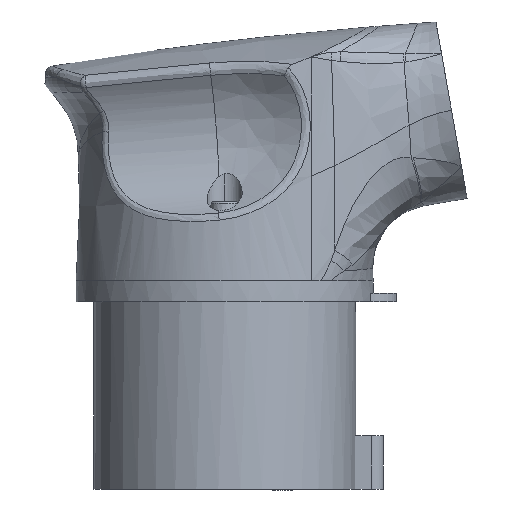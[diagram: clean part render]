
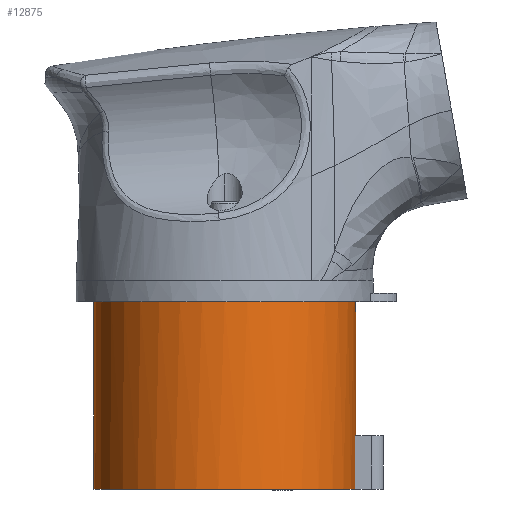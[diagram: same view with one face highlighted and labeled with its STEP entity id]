
A CAD part, left-side view. The second image highlights one B-rep face of the part: STEP entity #12875.
In plain terms, the highlighted cylindrical face has radius 31.75 mm (diameter 63.5 mm), a partial arc.
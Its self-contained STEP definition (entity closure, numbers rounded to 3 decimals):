
#335=CARTESIAN_POINT('',(0.,0.,-5.));
#336=DIRECTION('',(0.,0.,1.));
#337=DIRECTION('',(0.,1.,0.));
#338=AXIS2_PLACEMENT_3D('',#335,#336,#337);
#4680=CARTESIAN_POINT('',(0.,0.,-37.5));
#4681=DIRECTION('',(0.,0.,-1.));
#4682=DIRECTION('',(0.,-1.,0.));
#4683=AXIS2_PLACEMENT_3D('',#4680,#4681,#4682);
#4688=DIRECTION('',(0.,0.,-1.));
#4689=VECTOR('',#4688,13.);
#4690=CARTESIAN_POINT('',(-3.,-31.608,-37.5));
#4691=LINE('636',#4690,#4689);
#4695=CARTESIAN_POINT('',(0.,0.,-50.5));
#4696=DIRECTION('',(0.,0.,1.));
#4697=DIRECTION('',(0.,1.,0.));
#4698=AXIS2_PLACEMENT_3D('',#4695,#4696,#4697);
#4703=DIRECTION('',(0.,0.,1.));
#4704=VECTOR('',#4703,45.5);
#4705=CARTESIAN_POINT('',(0.,31.75,-50.5));
#4706=LINE('621',#4705,#4704);
#4710=DIRECTION('',(0.,0.,1.));
#4711=VECTOR('',#4710,32.5);
#4712=CARTESIAN_POINT('',(0.,-31.75,-37.5));
#4713=LINE('637',#4712,#4711);
#5554=CARTESIAN_POINT('',(0.,31.75,-50.5));
#5555=CARTESIAN_POINT('',(0.,31.75,-5.));
#5556=VERTEX_POINT('',#5554);
#5557=VERTEX_POINT('',#5555);
#5562=CARTESIAN_POINT('',(0.,-31.75,-5.));
#5563=VERTEX_POINT('',#5562);
#5573=CARTESIAN_POINT('',(0.,-31.75,-37.5));
#5575=VERTEX_POINT('',#5573);
#5578=CARTESIAN_POINT('',(-3.,-31.608,-37.5));
#5579=VERTEX_POINT('',#5578);
#5580=CARTESIAN_POINT('',(-3.,-31.608,-50.5));
#5581=VERTEX_POINT('',#5580);
#12857=CARTESIAN_POINT('',(0.,0.,2.525));
#12858=DIRECTION('',(0.,0.,-1.));
#12859=DIRECTION('',(0.,-1.,0.));
#12860=AXIS2_PLACEMENT_3D('',#12857,#12858,#12859);
#12861=CYLINDRICAL_SURFACE('404',#12860,31.75);
#12863=ORIENTED_EDGE('635',*,*,#12862,.T.);
#12865=ORIENTED_EDGE('636',*,*,#12864,.T.);
#12867=ORIENTED_EDGE('639',*,*,#12866,.F.);
#12869=ORIENTED_EDGE('621',*,*,#12868,.T.);
#12870=ORIENTED_EDGE('626',*,*,#6102,.T.);
#12872=ORIENTED_EDGE('637',*,*,#12871,.F.);
#12873=EDGE_LOOP('404',(#12863,#12865,#12867,#12869,#12870,#12872));
#12874=FACE_OUTER_BOUND('404',#12873,.F.);
#339=CIRCLE('626',#338,31.75);
#4684=CIRCLE('635',#4683,31.75);
#4699=CIRCLE('639',#4698,31.75);
#6102=EDGE_CURVE('626',#5557,#5563,#339,.T.);
#12862=EDGE_CURVE('635',#5575,#5579,#4684,.T.);
#12864=EDGE_CURVE('636',#5579,#5581,#4691,.T.);
#12866=EDGE_CURVE('639',#5556,#5581,#4699,.T.);
#12868=EDGE_CURVE('621',#5556,#5557,#4706,.T.);
#12871=EDGE_CURVE('637',#5575,#5563,#4713,.T.);
#12875=ADVANCED_FACE('404',(#12874),#12861,.T.);
